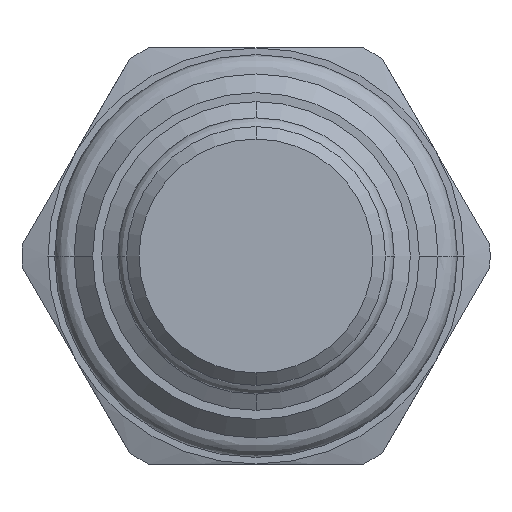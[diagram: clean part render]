
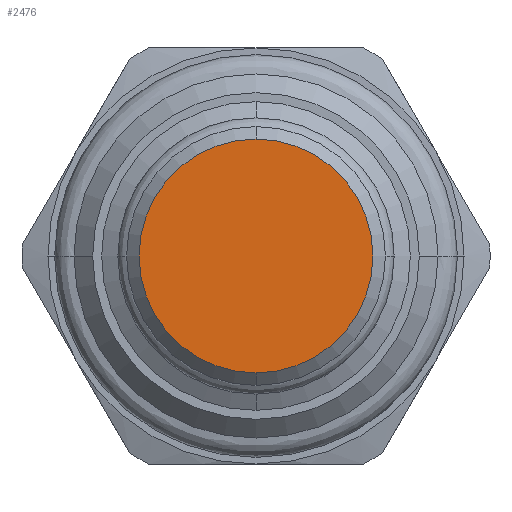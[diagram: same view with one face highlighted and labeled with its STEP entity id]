
A CAD part, front view. The second image highlights one B-rep face of the part: STEP entity #2476.
In plain terms, the highlighted planar face has unit normal (0, -1, 0).
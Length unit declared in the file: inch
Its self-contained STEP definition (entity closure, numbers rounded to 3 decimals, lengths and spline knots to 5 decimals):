
#901=CARTESIAN_POINT('',(0.,-1.25273,0.));
#902=DIRECTION('',(0.,1.,0.));
#903=DIRECTION('',(0.,0.,1.));
#904=AXIS2_PLACEMENT_3D('',#901,#902,#903);
#911=CARTESIAN_POINT('',(0.,-1.25273,0.));
#912=DIRECTION('',(0.,1.,0.));
#913=DIRECTION('',(0.,0.,-1.));
#914=AXIS2_PLACEMENT_3D('',#911,#912,#913);
#1103=CARTESIAN_POINT('',(0.,-1.25273,0.281));
#1104=CARTESIAN_POINT('',(0.,-1.25273,-0.281));
#1105=VERTEX_POINT('',#1103);
#1106=VERTEX_POINT('',#1104);
#2466=CARTESIAN_POINT('',(0.,-1.25273,0.));
#2467=DIRECTION('',(0.,-1.,0.));
#2468=DIRECTION('',(0.,0.,1.));
#2469=AXIS2_PLACEMENT_3D('',#2466,#2467,#2468);
#2470=PLANE('',#2469);
#2472=ORIENTED_EDGE('',*,*,#2471,.T.);
#2473=ORIENTED_EDGE('',*,*,#2456,.T.);
#2474=EDGE_LOOP('',(#2472,#2473));
#2475=FACE_OUTER_BOUND('',#2474,.F.);
#2476=ADVANCED_FACE('',(#2475),#2470,.T.);
#905=CIRCLE('',#904,0.281);
#915=CIRCLE('',#914,0.281);
#2456=EDGE_CURVE('',#1105,#1106,#905,.T.);
#2471=EDGE_CURVE('',#1106,#1105,#915,.T.);
